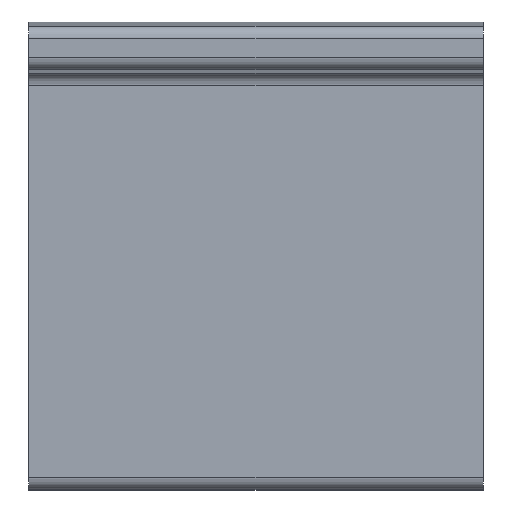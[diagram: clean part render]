
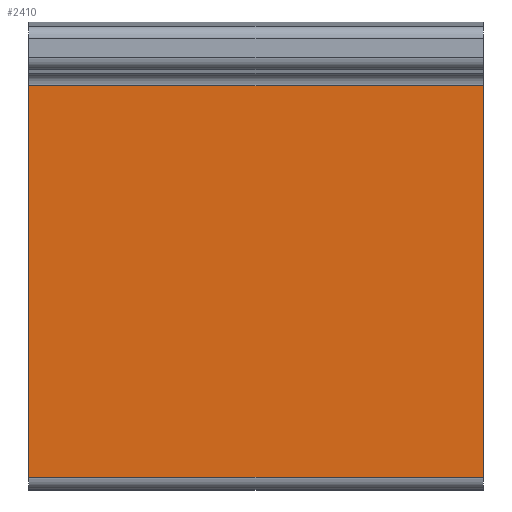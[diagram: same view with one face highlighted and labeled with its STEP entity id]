
A CAD part, top view. The second image highlights one B-rep face of the part: STEP entity #2410.
In plain terms, the highlighted planar face has unit normal (0, 0, 1).
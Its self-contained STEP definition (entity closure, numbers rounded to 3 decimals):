
#38 = VECTOR ( 'NONE', #1393, 1000. ) ;
#117 = DIRECTION ( 'NONE',  ( 0., 0., 1. ) ) ;
#364 = LINE ( 'NONE', #823, #1756 ) ;
#466 = VERTEX_POINT ( 'NONE', #1852 ) ;
#474 = CARTESIAN_POINT ( 'NONE',  ( 9., 0.092, 8.5 ) ) ;
#562 = EDGE_CURVE ( 'NONE', #466, #2123, #1945, .T. ) ;
#823 = CARTESIAN_POINT ( 'NONE',  ( 9., 15.61, 8.5 ) ) ;
#868 = LINE ( 'NONE', #918, #2009 ) ;
#918 = CARTESIAN_POINT ( 'NONE',  ( -9., 0.092, 8.5 ) ) ;
#977 = CARTESIAN_POINT ( 'NONE',  ( -9., 0.092, 8.5 ) ) ;
#990 = ORIENTED_EDGE ( 'NONE', *, *, #2672, .F. ) ;
#1078 = DIRECTION ( 'NONE',  ( 0., -1., 0. ) ) ;
#1132 = PLANE ( 'NONE',  #2556 ) ;
#1360 = EDGE_CURVE ( 'NONE', #466, #1424, #1365, .T. ) ;
#1365 = LINE ( 'NONE', #2102, #38 ) ;
#1393 = DIRECTION ( 'NONE',  ( 1., 0., 0. ) ) ;
#1424 = VERTEX_POINT ( 'NONE', #1912 ) ;
#1591 = DIRECTION ( 'NONE',  ( 1., 0., 0. ) ) ;
#1756 = VECTOR ( 'NONE', #1078, 1000. ) ;
#1782 = ORIENTED_EDGE ( 'NONE', *, *, #1360, .F. ) ;
#1852 = CARTESIAN_POINT ( 'NONE',  ( -9., 15.61, 8.5 ) ) ;
#1912 = CARTESIAN_POINT ( 'NONE',  ( 9., 15.61, 8.5 ) ) ;
#1945 = LINE ( 'NONE', #1992, #2193 ) ;
#1972 = EDGE_CURVE ( 'NONE', #2123, #2074, #868, .T. ) ;
#1992 = CARTESIAN_POINT ( 'NONE',  ( -9., 15.61, 8.5 ) ) ;
#2009 = VECTOR ( 'NONE', #1591, 1000. ) ;
#2057 = EDGE_LOOP ( 'NONE', ( #990, #1782, #2881, #2923 ) ) ;
#2074 = VERTEX_POINT ( 'NONE', #474 ) ;
#2078 = DIRECTION ( 'NONE',  ( 0., -1., 0. ) ) ;
#2102 = CARTESIAN_POINT ( 'NONE',  ( -9., 15.61, 8.5 ) ) ;
#2123 = VERTEX_POINT ( 'NONE', #977 ) ;
#2193 = VECTOR ( 'NONE', #2444, 1000. ) ;
#2410 = ADVANCED_FACE ( 'NONE', ( #2513 ), #1132, .T. ) ;
#2444 = DIRECTION ( 'NONE',  ( 0., -1., 0. ) ) ;
#2513 = FACE_OUTER_BOUND ( 'NONE', #2057, .T. ) ;
#2556 = AXIS2_PLACEMENT_3D ( 'NONE', #3029, #117, #2078 ) ;
#2672 = EDGE_CURVE ( 'NONE', #1424, #2074, #364, .T. ) ;
#2881 = ORIENTED_EDGE ( 'NONE', *, *, #562, .T. ) ;
#2923 = ORIENTED_EDGE ( 'NONE', *, *, #1972, .T. ) ;
#3029 = CARTESIAN_POINT ( 'NONE',  ( -9., 15.61, 8.5 ) ) ;
